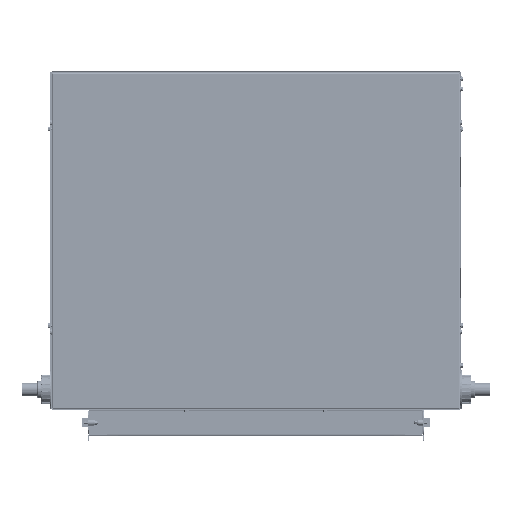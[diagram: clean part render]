
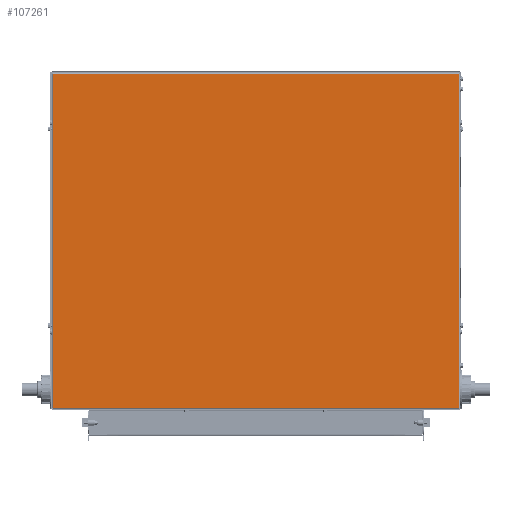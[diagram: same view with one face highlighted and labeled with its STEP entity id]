
A CAD part, front view. The second image highlights one B-rep face of the part: STEP entity #107261.
In plain terms, the highlighted planar face has unit normal (0, 0, 1) by its records, which use the part's own axes.
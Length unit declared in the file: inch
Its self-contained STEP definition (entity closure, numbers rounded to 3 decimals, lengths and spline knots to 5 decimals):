
#1139 = CARTESIAN_POINT ( 'NONE',  ( -11.37238, -15.05903, 0. ) ) ;
#2134 = LINE ( 'NONE', #17822, #54506 ) ;
#11767 = EDGE_CURVE ( 'NONE', #55593, #112469, #54681, .T. ) ;
#12122 = ORIENTED_EDGE ( 'NONE', *, *, #120570, .T. ) ;
#13315 = CARTESIAN_POINT ( 'NONE',  ( 20.95812, 11.58397, 0. ) ) ;
#16945 = CARTESIAN_POINT ( 'NONE',  ( 20.85112, 11.58397, 0. ) ) ;
#17822 = CARTESIAN_POINT ( 'NONE',  ( 20.95812, -15.05903, 0. ) ) ;
#24068 = CARTESIAN_POINT ( 'NONE',  ( 20.85112, 11.47697, 0. ) ) ;
#34992 = EDGE_CURVE ( 'NONE', #133983, #55593, #88501, .T. ) ;
#41558 = ORIENTED_EDGE ( 'NONE', *, *, #34992, .T. ) ;
#44956 = DIRECTION ( 'NONE',  ( 0., 0., 1. ) ) ;
#46596 = VECTOR ( 'NONE', #111040, 39.37008 ) ;
#47878 = CARTESIAN_POINT ( 'NONE',  ( 20.85112, -15.05903, 0. ) ) ;
#54506 = VECTOR ( 'NONE', #90924, 39.37008 ) ;
#54681 = LINE ( 'NONE', #110794, #46596 ) ;
#55593 = VERTEX_POINT ( 'NONE', #24068 ) ;
#65431 = PLANE ( 'NONE',  #103371 ) ;
#69109 = DIRECTION ( 'NONE',  ( 0., 1., 0. ) ) ;
#70517 = CARTESIAN_POINT ( 'NONE',  ( -11.37238, 11.58397, 0. ) ) ;
#72470 = ORIENTED_EDGE ( 'NONE', *, *, #74596, .T. ) ;
#74596 = EDGE_CURVE ( 'NONE', #81188, #133983, #2134, .T. ) ;
#78713 = CARTESIAN_POINT ( 'NONE',  ( -11.37238, 11.47697, 0. ) ) ;
#81188 = VERTEX_POINT ( 'NONE', #1139 ) ;
#88501 = LINE ( 'NONE', #16945, #112736 ) ;
#90924 = DIRECTION ( 'NONE',  ( 1., 0., 0. ) ) ;
#101263 = ORIENTED_EDGE ( 'NONE', *, *, #11767, .T. ) ;
#103371 = AXIS2_PLACEMENT_3D ( 'NONE', #13315, #44956, #117559 ) ;
#107261 = ADVANCED_FACE ( 'NONE', ( #111852 ), #65431, .T. ) ;
#110794 = CARTESIAN_POINT ( 'NONE',  ( 20.95812, 11.47697, 0. ) ) ;
#111040 = DIRECTION ( 'NONE',  ( -1., 0., 0. ) ) ;
#111852 = FACE_OUTER_BOUND ( 'NONE', #115393, .T. ) ;
#112469 = VERTEX_POINT ( 'NONE', #78713 ) ;
#112736 = VECTOR ( 'NONE', #69109, 39.37008 ) ;
#115393 = EDGE_LOOP ( 'NONE', ( #72470, #41558, #101263, #12122 ) ) ;
#117559 = DIRECTION ( 'NONE',  ( 0., -1., 0. ) ) ;
#120570 = EDGE_CURVE ( 'NONE', #112469, #81188, #131507, .T. ) ;
#128363 = VECTOR ( 'NONE', #132888, 39.37008 ) ;
#131507 = LINE ( 'NONE', #70517, #128363 ) ;
#132888 = DIRECTION ( 'NONE',  ( 0., -1., 0. ) ) ;
#133983 = VERTEX_POINT ( 'NONE', #47878 ) ;
